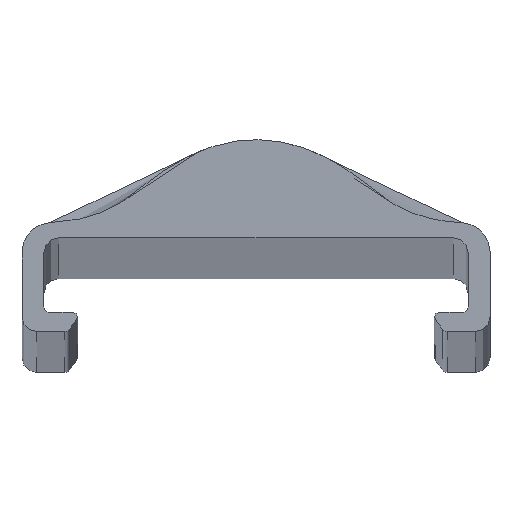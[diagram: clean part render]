
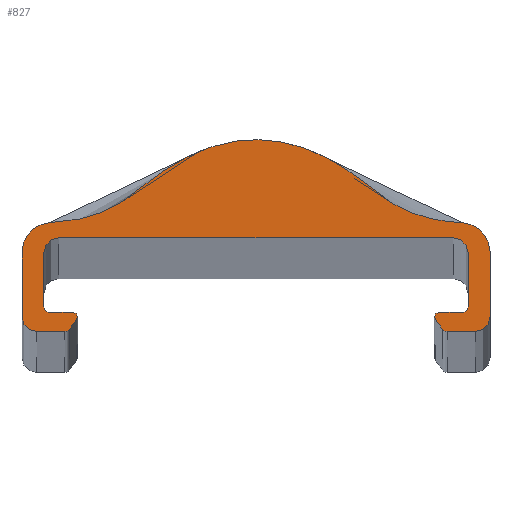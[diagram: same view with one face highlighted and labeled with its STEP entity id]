
A CAD part, top view. The second image highlights one B-rep face of the part: STEP entity #827.
In plain terms, the highlighted planar face has unit normal (0, 0, 1).
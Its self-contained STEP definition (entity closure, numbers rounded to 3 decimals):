
#88=DIRECTION('',(0.602,-0.799,0.));
#89=VECTOR('',#88,0.827);
#90=CARTESIAN_POINT('',(12.26,0.819,800.));
#91=LINE('',#90,#89);
#95=CARTESIAN_POINT('',(12.5,1.,800.));
#96=DIRECTION('',(0.,0.,-1.));
#97=DIRECTION('',(-0.799,-0.602,0.));
#98=AXIS2_PLACEMENT_3D('',#95,#96,#97);
#103=CARTESIAN_POINT('',(14.1,1.7,800.));
#104=DIRECTION('',(0.,0.,1.));
#105=DIRECTION('',(0.,-1.,0.));
#106=AXIS2_PLACEMENT_3D('',#103,#104,#105);
#111=CARTESIAN_POINT('',(13.5,5.4,800.));
#112=DIRECTION('',(0.,0.,1.));
#113=DIRECTION('',(1.,0.,0.));
#114=AXIS2_PLACEMENT_3D('',#111,#112,#113);
#119=CARTESIAN_POINT('',(-13.5,5.4,800.));
#120=DIRECTION('',(0.,0.,1.));
#121=DIRECTION('',(0.,1.,0.));
#122=AXIS2_PLACEMENT_3D('',#119,#120,#121);
#127=CARTESIAN_POINT('',(-14.1,1.7,800.));
#128=DIRECTION('',(0.,0.,1.));
#129=DIRECTION('',(-1.,0.,0.));
#130=AXIS2_PLACEMENT_3D('',#127,#128,#129);
#135=CARTESIAN_POINT('',(-12.5,1.,800.));
#136=DIRECTION('',(0.,0.,1.));
#137=DIRECTION('',(0.799,-0.602,0.));
#138=AXIS2_PLACEMENT_3D('',#135,#136,#137);
#143=DIRECTION('',(-0.602,-0.799,0.));
#144=VECTOR('',#143,0.827);
#145=CARTESIAN_POINT('',(-12.26,0.819,800.));
#146=LINE('',#145,#144);
#150=CARTESIAN_POINT('',(-13.077,0.4,800.));
#151=DIRECTION('',(0.,0.,1.));
#152=DIRECTION('',(0.,-1.,0.));
#153=AXIS2_PLACEMENT_3D('',#150,#151,#152);
#158=CARTESIAN_POINT('',(-15.,1.,800.));
#159=DIRECTION('',(0.,0.,-1.));
#160=DIRECTION('',(0.,-1.,0.));
#161=AXIS2_PLACEMENT_3D('',#158,#159,#160);
#166=CARTESIAN_POINT('',(-14.,5.441,800.));
#167=DIRECTION('',(0.,0.,-1.));
#168=DIRECTION('',(-1.,0.,0.));
#169=AXIS2_PLACEMENT_3D('',#166,#167,#168);
#174=CARTESIAN_POINT('',(-14.105,7.438,800.));
#175=CARTESIAN_POINT('',(-14.011,7.443,800.));
#176=CARTESIAN_POINT('',(-13.555,7.47,800.));
#177=CARTESIAN_POINT('',(-12.738,7.552,800.));
#178=CARTESIAN_POINT('',(-11.668,7.761,800.));
#179=CARTESIAN_POINT('',(-10.628,8.094,800.));
#180=CARTESIAN_POINT('',(-9.64,8.556,800.));
#181=CARTESIAN_POINT('',(-8.872,9.042,800.));
#182=CARTESIAN_POINT('',(-8.295,9.483,800.));
#183=CARTESIAN_POINT('',(-7.877,9.832,800.));
#184=CARTESIAN_POINT('',(-7.455,10.176,800.));
#185=CARTESIAN_POINT('',(-6.878,10.618,800.));
#186=CARTESIAN_POINT('',(-6.134,11.138,800.));
#187=CARTESIAN_POINT('',(-5.2,11.7,800.));
#188=CARTESIAN_POINT('',(-3.901,12.35,800.));
#189=CARTESIAN_POINT('',(-2.177,12.946,800.));
#190=CARTESIAN_POINT('',(0.,13.202,800.));
#191=CARTESIAN_POINT('',(2.177,12.946,800.));
#192=CARTESIAN_POINT('',(3.901,12.35,800.));
#193=CARTESIAN_POINT('',(5.2,11.7,800.));
#194=CARTESIAN_POINT('',(6.134,11.138,800.));
#195=CARTESIAN_POINT('',(6.878,10.618,800.));
#196=CARTESIAN_POINT('',(7.455,10.176,800.));
#197=CARTESIAN_POINT('',(7.877,9.832,800.));
#198=CARTESIAN_POINT('',(8.295,9.483,800.));
#199=CARTESIAN_POINT('',(8.872,9.042,800.));
#200=CARTESIAN_POINT('',(9.64,8.556,800.));
#201=CARTESIAN_POINT('',(10.628,8.094,800.));
#202=CARTESIAN_POINT('',(11.668,7.761,800.));
#203=CARTESIAN_POINT('',(12.738,7.552,800.));
#204=CARTESIAN_POINT('',(13.555,7.47,800.));
#205=CARTESIAN_POINT('',(14.011,7.443,800.));
#206=CARTESIAN_POINT('',(14.105,7.438,800.));
#211=CARTESIAN_POINT('',(14.,5.441,800.));
#212=DIRECTION('',(0.,0.,-1.));
#213=DIRECTION('',(0.052,0.999,0.));
#214=AXIS2_PLACEMENT_3D('',#211,#212,#213);
#219=CARTESIAN_POINT('',(15.,1.,800.));
#220=DIRECTION('',(0.,0.,-1.));
#221=DIRECTION('',(1.,0.,0.));
#222=AXIS2_PLACEMENT_3D('',#219,#220,#221);
#227=CARTESIAN_POINT('',(13.077,0.4,800.));
#228=DIRECTION('',(0.,0.,-1.));
#229=DIRECTION('',(0.,-1.,0.));
#230=AXIS2_PLACEMENT_3D('',#227,#228,#229);
#417=DIRECTION('',(-1.,0.,0.));
#418=VECTOR('',#417,1.923);
#419=CARTESIAN_POINT('',(15.,0.,800.));
#420=LINE('',#419,#418);
#452=DIRECTION('',(0.,-1.,0.));
#453=VECTOR('',#452,4.441);
#454=CARTESIAN_POINT('',(16.,5.441,800.));
#455=LINE('',#454,#453);
#487=DIRECTION('',(0.,1.,0.));
#488=VECTOR('',#487,4.441);
#489=CARTESIAN_POINT('',(-16.,1.,800.));
#490=LINE('',#489,#488);
#515=DIRECTION('',(1.,0.,0.));
#516=VECTOR('',#515,1.923);
#517=CARTESIAN_POINT('',(-15.,0.,800.));
#518=LINE('',#517,#516);
#543=DIRECTION('',(-1.,0.,0.));
#544=VECTOR('',#543,1.6);
#545=CARTESIAN_POINT('',(-12.5,1.3,800.));
#546=LINE('',#545,#544);
#557=DIRECTION('',(0.,1.,0.));
#558=VECTOR('',#557,3.7);
#559=CARTESIAN_POINT('',(-14.5,1.7,800.));
#560=LINE('',#559,#558);
#585=DIRECTION('',(-1.,0.,0.));
#586=VECTOR('',#585,27.);
#587=CARTESIAN_POINT('',(13.5,6.4,800.));
#588=LINE('',#587,#586);
#613=DIRECTION('',(0.,1.,0.));
#614=VECTOR('',#613,3.7);
#615=CARTESIAN_POINT('',(14.5,1.7,800.));
#616=LINE('',#615,#614);
#655=DIRECTION('',(1.,0.,0.));
#656=VECTOR('',#655,1.6);
#657=CARTESIAN_POINT('',(12.5,1.3,800.));
#658=LINE('',#657,#656);
#662=CARTESIAN_POINT('',(-14.5,1.7,800.));
#663=CARTESIAN_POINT('',(-14.1,1.3,800.));
#664=VERTEX_POINT('',#662);
#665=VERTEX_POINT('',#663);
#670=CARTESIAN_POINT('',(-16.,5.441,800.));
#671=CARTESIAN_POINT('',(-14.105,7.438,800.));
#672=VERTEX_POINT('',#670);
#673=VERTEX_POINT('',#671);
#674=CARTESIAN_POINT('',(-16.,1.,800.));
#675=VERTEX_POINT('',#674);
#676=CARTESIAN_POINT('',(-15.,0.,800.));
#677=VERTEX_POINT('',#676);
#678=CARTESIAN_POINT('',(-14.5,5.4,800.));
#679=VERTEX_POINT('',#678);
#680=CARTESIAN_POINT('',(-13.5,6.4,800.));
#681=VERTEX_POINT('',#680);
#682=CARTESIAN_POINT('',(13.5,6.4,800.));
#683=VERTEX_POINT('',#682);
#684=CARTESIAN_POINT('',(14.5,5.4,800.));
#685=VERTEX_POINT('',#684);
#686=CARTESIAN_POINT('',(14.5,1.7,800.));
#687=VERTEX_POINT('',#686);
#688=CARTESIAN_POINT('',(14.1,1.3,800.));
#689=VERTEX_POINT('',#688);
#690=CARTESIAN_POINT('',(16.,1.,800.));
#691=CARTESIAN_POINT('',(15.,0.,800.));
#692=VERTEX_POINT('',#690);
#693=VERTEX_POINT('',#691);
#694=CARTESIAN_POINT('',(16.,5.441,800.));
#695=VERTEX_POINT('',#694);
#696=CARTESIAN_POINT('',(14.105,7.438,800.));
#697=VERTEX_POINT('',#696);
#725=CARTESIAN_POINT('',(-12.26,0.819,800.));
#726=CARTESIAN_POINT('',(-12.758,0.159,800.));
#727=VERTEX_POINT('',#725);
#728=VERTEX_POINT('',#726);
#729=CARTESIAN_POINT('',(-13.077,0.,800.));
#730=VERTEX_POINT('',#729);
#731=CARTESIAN_POINT('',(-12.5,1.3,800.));
#732=VERTEX_POINT('',#731);
#741=CARTESIAN_POINT('',(12.26,0.819,800.));
#743=VERTEX_POINT('',#741);
#745=CARTESIAN_POINT('',(12.758,0.159,800.));
#747=VERTEX_POINT('',#745);
#749=CARTESIAN_POINT('',(13.077,0.,800.));
#750=VERTEX_POINT('',#749);
#751=CARTESIAN_POINT('',(12.5,1.3,800.));
#752=VERTEX_POINT('',#751);
#773=CARTESIAN_POINT('',(0.,6.558,800.));
#774=DIRECTION('',(0.,0.,1.));
#775=DIRECTION('',(-1.,0.,0.));
#776=AXIS2_PLACEMENT_3D('',#773,#774,#775);
#777=PLANE('',#776);
#779=ORIENTED_EDGE('',*,*,#778,.F.);
#781=ORIENTED_EDGE('',*,*,#780,.T.);
#783=ORIENTED_EDGE('',*,*,#782,.T.);
#785=ORIENTED_EDGE('',*,*,#784,.T.);
#787=ORIENTED_EDGE('',*,*,#786,.T.);
#789=ORIENTED_EDGE('',*,*,#788,.T.);
#791=ORIENTED_EDGE('',*,*,#790,.T.);
#793=ORIENTED_EDGE('',*,*,#792,.T.);
#795=ORIENTED_EDGE('',*,*,#794,.F.);
#796=ORIENTED_EDGE('',*,*,#762,.T.);
#798=ORIENTED_EDGE('',*,*,#797,.F.);
#800=ORIENTED_EDGE('',*,*,#799,.F.);
#802=ORIENTED_EDGE('',*,*,#801,.T.);
#804=ORIENTED_EDGE('',*,*,#803,.F.);
#806=ORIENTED_EDGE('',*,*,#805,.F.);
#808=ORIENTED_EDGE('',*,*,#807,.T.);
#810=ORIENTED_EDGE('',*,*,#809,.T.);
#812=ORIENTED_EDGE('',*,*,#811,.T.);
#814=ORIENTED_EDGE('',*,*,#813,.T.);
#816=ORIENTED_EDGE('',*,*,#815,.T.);
#818=ORIENTED_EDGE('',*,*,#817,.T.);
#820=ORIENTED_EDGE('',*,*,#819,.T.);
#822=ORIENTED_EDGE('',*,*,#821,.T.);
#824=ORIENTED_EDGE('',*,*,#823,.T.);
#825=EDGE_LOOP('',(#779,#781,#783,#785,#787,#789,#791,#793,#795,#796,#798,#800,
#802,#804,#806,#808,#810,#812,#814,#816,#818,#820,#822,#824));
#826=FACE_OUTER_BOUND('',#825,.F.);
#99=CIRCLE('',#98,0.3);
#107=CIRCLE('',#106,0.4);
#115=CIRCLE('',#114,1.);
#123=CIRCLE('',#122,1.);
#131=CIRCLE('',#130,0.4);
#139=CIRCLE('',#138,0.3);
#154=CIRCLE('',#153,0.4);
#162=CIRCLE('',#161,1.);
#170=CIRCLE('',#169,2.);
#207=B_SPLINE_CURVE_WITH_KNOTS('',3,(#174,#175,#176,#177,#178,#179,#180,#181,
#182,#183,#184,#185,#186,#187,#188,#189,#190,#191,#192,#193,#194,#195,#196,#197,
#198,#199,#200,#201,#202,#203,#204,#205,#206),.UNSPECIFIED.,.F.,.F.,(4,1,1,1,1,
1,1,1,1,1,1,1,1,1,1,1,1,1,1,1,1,1,1,1,1,1,1,1,1,1,4),(0.,0.009,
0.044,0.079,0.114,0.149,
0.184,0.202,0.219,0.237,
0.255,0.29,0.325,0.36,
0.43,0.5,0.57,0.64,
0.675,0.71,0.745,0.763,
0.781,0.798,0.816,0.851,
0.886,0.921,0.956,0.991,1.),
.UNSPECIFIED.);
#215=CIRCLE('',#214,2.);
#223=CIRCLE('',#222,1.);
#231=CIRCLE('',#230,0.4);
#762=EDGE_CURVE('',#664,#665,#131,.T.);
#778=EDGE_CURVE('',#743,#747,#91,.T.);
#780=EDGE_CURVE('',#743,#752,#99,.T.);
#782=EDGE_CURVE('',#752,#689,#658,.T.);
#784=EDGE_CURVE('',#689,#687,#107,.T.);
#786=EDGE_CURVE('',#687,#685,#616,.T.);
#788=EDGE_CURVE('',#685,#683,#115,.T.);
#790=EDGE_CURVE('',#683,#681,#588,.T.);
#792=EDGE_CURVE('',#681,#679,#123,.T.);
#794=EDGE_CURVE('',#664,#679,#560,.T.);
#797=EDGE_CURVE('',#732,#665,#546,.T.);
#799=EDGE_CURVE('',#727,#732,#139,.T.);
#801=EDGE_CURVE('',#727,#728,#146,.T.);
#803=EDGE_CURVE('',#730,#728,#154,.T.);
#805=EDGE_CURVE('',#677,#730,#518,.T.);
#807=EDGE_CURVE('',#677,#675,#162,.T.);
#809=EDGE_CURVE('',#675,#672,#490,.T.);
#811=EDGE_CURVE('',#672,#673,#170,.T.);
#813=EDGE_CURVE('',#673,#697,#207,.T.);
#815=EDGE_CURVE('',#697,#695,#215,.T.);
#817=EDGE_CURVE('',#695,#692,#455,.T.);
#819=EDGE_CURVE('',#692,#693,#223,.T.);
#821=EDGE_CURVE('',#693,#750,#420,.T.);
#823=EDGE_CURVE('',#750,#747,#231,.T.);
#827=ADVANCED_FACE('',(#826),#777,.T.);
